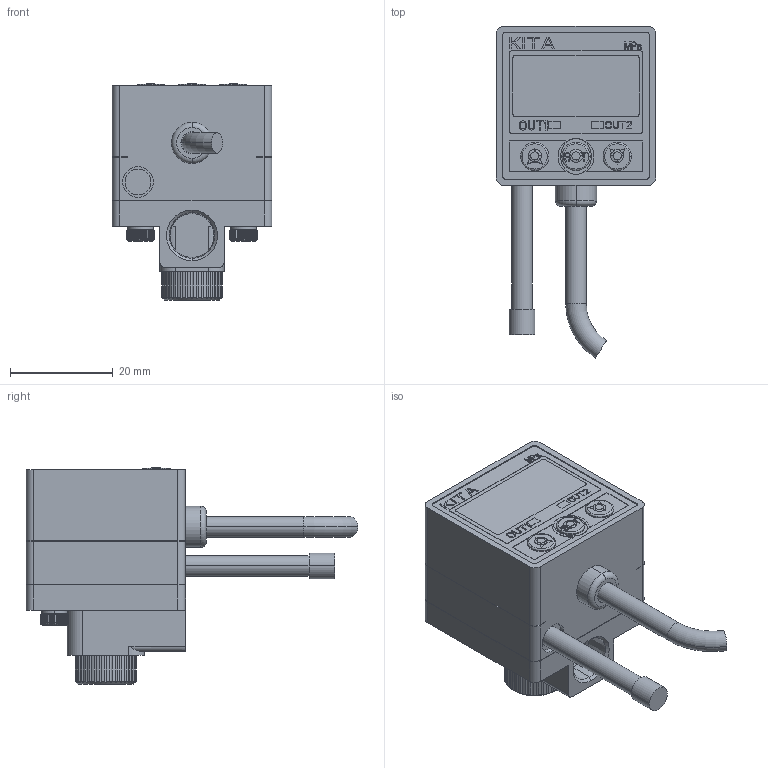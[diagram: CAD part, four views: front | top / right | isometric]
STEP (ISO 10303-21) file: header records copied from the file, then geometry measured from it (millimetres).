
FILE_DESCRIPTION((''),'2;1');
FILE_NAME('KP25','2019-07-04T',('Stark'),(''),'CREO PARAMETRIC BY PTC INC, 2014500','CREO PARAMETRIC BY PTC INC, 2014500','');
FILE_SCHEMA(('CONFIG_CONTROL_DESIGN'));
Products named in the file (1): KP25
Bounding box: 31 x 64.51 x 42 mm (x, y, z)
Volume: 29453.2 mm3; surface area: 7941.9 mm2
Topology: 2 solids, 4 shells, 1263 faces, 3372 edges, 2169 vertices
Faces by surface type: plane 709, cylinder 256, bspline 196, cone 86, torus 14, extrusion 2
Entity records: 52634 total; most frequent: CARTESIAN_POINT 22844, ORIENTED_EDGE 6740, DIRECTION 5335, EDGE_CURVE 3370, VERTEX_POINT 2169, VECTOR 2021, LINE 2019, AXIS2_PLACEMENT_3D 1657
